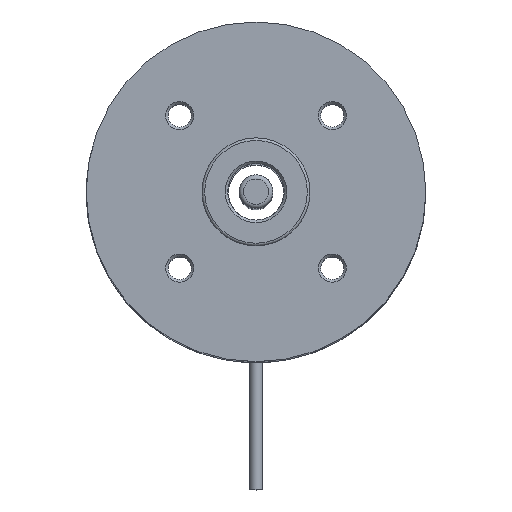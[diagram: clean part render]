
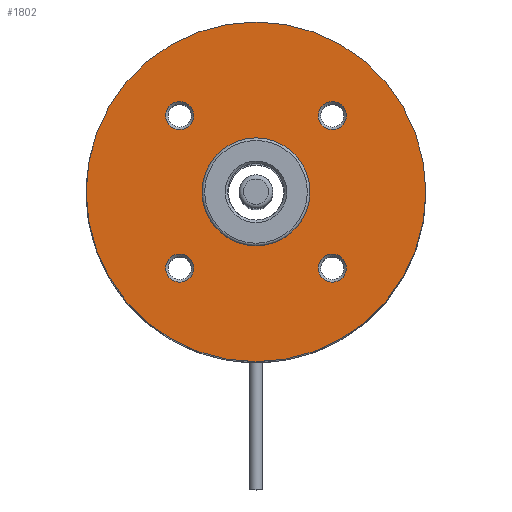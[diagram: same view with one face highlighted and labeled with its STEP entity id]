
A CAD part, top view. The second image highlights one B-rep face of the part: STEP entity #1802.
In plain terms, the highlighted planar face has unit normal (0, 0, 1).
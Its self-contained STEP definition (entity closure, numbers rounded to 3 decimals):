
#156=FACE_BOUND('',#346,.T.);
#157=FACE_BOUND('',#347,.T.);
#158=FACE_BOUND('',#348,.T.);
#159=FACE_BOUND('',#349,.T.);
#160=FACE_BOUND('',#350,.T.);
#186=PLANE('',#2096);
#234=FACE_OUTER_BOUND('',#345,.T.);
#345=EDGE_LOOP('',(#1249));
#346=EDGE_LOOP('',(#1250));
#347=EDGE_LOOP('',(#1251));
#348=EDGE_LOOP('',(#1252));
#349=EDGE_LOOP('',(#1253));
#350=EDGE_LOOP('',(#1254));
#692=CIRCLE('',#2095,1.65);
#693=CIRCLE('',#2097,20.);
#694=CIRCLE('',#2098,1.65);
#695=CIRCLE('',#2099,1.65);
#696=CIRCLE('',#2100,6.35);
#697=CIRCLE('',#2101,1.65);
#809=VERTEX_POINT('',#2955);
#810=VERTEX_POINT('',#2959);
#811=VERTEX_POINT('',#2961);
#812=VERTEX_POINT('',#2963);
#813=VERTEX_POINT('',#2965);
#814=VERTEX_POINT('',#2967);
#983=EDGE_CURVE('',#809,#809,#692,.T.);
#984=EDGE_CURVE('',#810,#810,#693,.T.);
#985=EDGE_CURVE('',#811,#811,#694,.T.);
#986=EDGE_CURVE('',#812,#812,#695,.T.);
#987=EDGE_CURVE('',#813,#813,#696,.T.);
#988=EDGE_CURVE('',#814,#814,#697,.T.);
#1249=ORIENTED_EDGE('',*,*,#984,.F.);
#1250=ORIENTED_EDGE('',*,*,#985,.F.);
#1251=ORIENTED_EDGE('',*,*,#986,.F.);
#1252=ORIENTED_EDGE('',*,*,#987,.T.);
#1253=ORIENTED_EDGE('',*,*,#988,.F.);
#1254=ORIENTED_EDGE('',*,*,#983,.F.);
#1802=ADVANCED_FACE('',(#234,#156,#157,#158,#159,#160),#186,.F.);
#2095=AXIS2_PLACEMENT_3D('',#2957,#2352,#2353);
#2096=AXIS2_PLACEMENT_3D('',#2958,#2354,#2355);
#2097=AXIS2_PLACEMENT_3D('',#2960,#2356,#2357);
#2098=AXIS2_PLACEMENT_3D('',#2962,#2358,#2359);
#2099=AXIS2_PLACEMENT_3D('',#2964,#2360,#2361);
#2100=AXIS2_PLACEMENT_3D('',#2966,#2362,#2363);
#2101=AXIS2_PLACEMENT_3D('',#2968,#2364,#2365);
#2352=DIRECTION('center_axis',(0.,0.,1.));
#2353=DIRECTION('ref_axis',(0.,-1.,0.));
#2354=DIRECTION('center_axis',(0.,0.,-1.));
#2355=DIRECTION('ref_axis',(-1.,0.,0.));
#2356=DIRECTION('center_axis',(0.,0.,-1.));
#2357=DIRECTION('ref_axis',(-1.,0.,0.));
#2358=DIRECTION('center_axis',(0.,0.,1.));
#2359=DIRECTION('ref_axis',(1.,0.,0.));
#2360=DIRECTION('center_axis',(0.,0.,1.));
#2361=DIRECTION('ref_axis',(-1.,0.,0.));
#2362=DIRECTION('center_axis',(0.,0.,-1.));
#2363=DIRECTION('ref_axis',(-1.,0.,0.));
#2364=DIRECTION('center_axis',(0.,0.,1.));
#2365=DIRECTION('ref_axis',(0.,1.,0.));
#2955=CARTESIAN_POINT('',(-8.98,-7.33,2.6));
#2957=CARTESIAN_POINT('Origin',(-8.98,-8.98,2.6));
#2958=CARTESIAN_POINT('Origin',(0.,0.,2.6));
#2959=CARTESIAN_POINT('',(20.,0.,2.6));
#2960=CARTESIAN_POINT('Origin',(0.,0.,2.6));
#2961=CARTESIAN_POINT('',(7.33,-8.98,2.6));
#2962=CARTESIAN_POINT('Origin',(8.98,-8.98,2.6));
#2963=CARTESIAN_POINT('',(-7.33,8.98,2.6));
#2964=CARTESIAN_POINT('Origin',(-8.98,8.98,2.6));
#2965=CARTESIAN_POINT('',(6.35,0.,2.6));
#2966=CARTESIAN_POINT('Origin',(0.,0.,2.6));
#2967=CARTESIAN_POINT('',(8.98,7.33,2.6));
#2968=CARTESIAN_POINT('Origin',(8.98,8.98,2.6));
